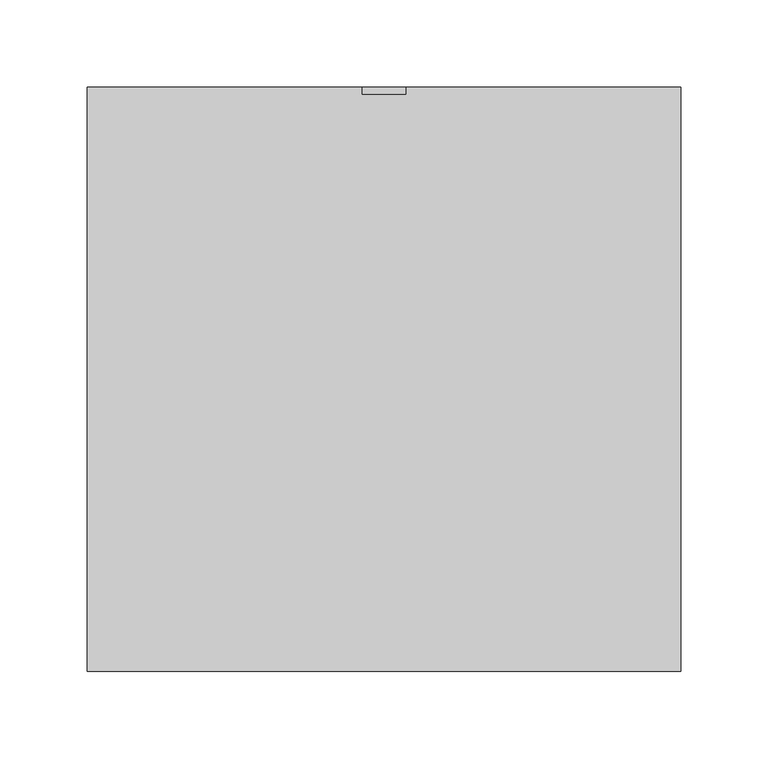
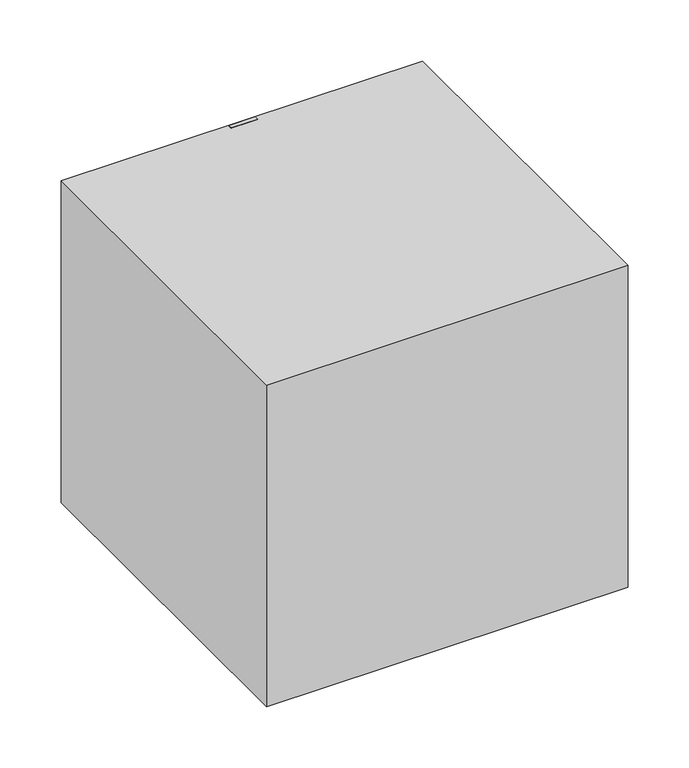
"""IFC4 building model written with IfcOpenShell, lengths in millimetres: damper geometry, Дроссель-клапан_Круглый : Дроссель-клапан_Круглый."""

from ifc_helpers import new_model, si_unit, point, frame, origin, origin_2d, place, context, project, spatial, polyline, circle_curve, trimmed, segment, composite_curve, outline, extrude, source, transform, mapped, element, save
from ifc_brep_helpers import plane_surface, cylinder_surface, advanced_brep


def damper_23d59467(model_context):
    return source(origin(), model_context, "Body", "SolidModel", [
        advanced_brep(
        [(12.5, 155.0, -40.0), (12.5, 159.0, -40.0), (12.5, 159.0, 68.0), (12.5, 185.0, 102.0), (12.5, 185.0, 170.0), (12.5, 181.0, 170.0), (12.5, 181.0, 102.0), (12.5, 155.0, 68.0), (-12.5, 155.0, -40.0), (-12.5, 155.0, 68.0), (-12.5, 181.0, 102.0), (-12.5, 181.0, 170.0), (-12.5, 185.0, 170.0), (-12.5, 185.0, 102.0), (-12.5, 159.0, 68.0), (-12.5, 159.0, -40.0), (0.0, 159.0, -10.0), (0.0, 159.0, 10.0), (0.0, 185.0, 10.0), (0.0, 185.0, -10.0)],
        [
            (0, 1),
            (1, 2),
            (2, 3),
            (3, 4),
            (4, 5),
            (5, 6),
            (6, 7),
            (7, 0),
            (8, 9),
            (9, 10),
            (10, 11),
            (11, 12),
            (12, 13),
            (13, 14),
            (14, 15),
            (15, 8),
            (0, 8),
            (15, 1),
            (14, 2),
            (16, 17, circle_curve(frame((0.0, 159.0, 0.0), z_axis=(0.0, -1.0, 0.0), x_axis=(0.0, 0.0, -1.0)), 10.0)),
            (17, 16, circle_curve(frame((0.0, 159.0, 0.0), z_axis=(0.0, -1.0, 0.0), x_axis=(0.0, 0.0, -1.0)), 10.0)),
            (3, 13),
            (12, 4),
            (11, 5),
            (10, 6),
            (7, 9),
            (18, 19, circle_curve(frame((0.0, 185.0, 0.0), z_axis=(0.0, 1.0, 0.0), x_axis=(0.0, 0.0, -1.0)), 10.0)),
            (19, 18, circle_curve(frame((0.0, 185.0, 0.0), z_axis=(0.0, 1.0, 0.0), x_axis=(0.0, 0.0, -1.0)), 10.0)),
            (18, 17),
            (16, 19),
        ],
        [
            plane_surface(frame((12.5, 159.0, -40.0), z_axis=(1.0, 0.0, 0.0), x_axis=(0.0, 1.0, 0.0))),
            plane_surface(frame((-12.5, 159.0, -40.0), z_axis=(-1.0, 0.0, 0.0), x_axis=(0.0, -1.0, 0.0))),
            plane_surface(frame((12.5, 155.0, -40.0), z_axis=(0.0, 0.0, -1.0), x_axis=(-1.0, 0.0, 0.0))),
            plane_surface(frame((12.5, 159.0, -40.0), z_axis=(0.0, 1.0, 0.0), x_axis=(-1.0, 0.0, 0.0))),
            plane_surface(frame((12.5, 185.0, 102.0), z_axis=(0.0, 1.0, 0.0), x_axis=(-1.0, 0.0, 0.0))),
            plane_surface(frame((12.5, 185.0, 170.0), z_axis=(0.0, 0.0, 1.0), x_axis=(-1.0, 0.0, 0.0))),
            plane_surface(frame((12.5, 181.0, 170.0), z_axis=(0.0, -1.0, 0.0), x_axis=(-1.0, 0.0, 0.0))),
            plane_surface(frame((12.5, 155.0, 68.0), z_axis=(0.0, -1.0, 0.0), x_axis=(-1.0, 0.0, 0.0))),
            plane_surface(frame((0.0, 185.0, -10.0), z_axis=(0.0, 1.0, 0.0), x_axis=(-1.0, 0.0, 0.0))),
            cylinder_surface(frame((0.0, 155.0, 0.0), z_axis=(0.0, 1.0, 0.0), x_axis=(0.0, 0.0, -1.0)), 10.0),
            plane_surface(frame((12.5, 159.0, 68.0), z_axis=(0.0, 0.7943578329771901, -0.6074501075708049), x_axis=(-1.0, 0.0, 0.0))),
            plane_surface(frame((12.5, 181.0, 102.0), z_axis=(0.0, -0.7943578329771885, 0.6074501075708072), x_axis=(-1.0, 0.0, 0.0))),
        ],
        [
            (0, [[1, 2, 3, 4, 5, 6, 7, 8]]),
            (1, [[9, 10, 11, 12, 13, 14, 15, 16]]),
            (2, [[-1, 17, -16, 18]]),
            (3, [[-2, -18, -15, 19], [20, 21]]),
            (4, [[-4, 22, -13, 23]]),
            (5, [[-5, -23, -12, 24]]),
            (6, [[-6, -24, -11, 25]]),
            (7, [[-8, 26, -9, -17]]),
            (8, [[27, 28]]),
            (9, [[-27, 29, -20, 30]]),
            (9, [[-28, -30, -21, -29]]),
            (10, [[-3, -19, -14, -22]]),
            (11, [[-7, -25, -10, -26]]),
        ],
    ),
        extrude(outline(polyline([(62.5, 155.0), (62.5, 0.0), (-62.5, 0.0), (-62.5, 155.0), (62.5, 155.0)])), frame((0.0, 0.0, -62.5), z_axis=(0.0, 0.0, 1.0), x_axis=(1.0, 0.0, 0.0)), (0.0, 0.0, 1.0), 125.0),
        extrude(outline(composite_curve([segment(trimmed(circle_curve(origin_2d(), 125.0), [point((-125.0, 0.0))], [point((125.0, 0.0))], False, "CARTESIAN"), True, "CONTINUOUS"), segment(trimmed(circle_curve(origin_2d(), 125.0), [point((125.0, 0.0))], [point((-125.0, 0.0))], False, "CARTESIAN"), True, "CONTINUOUS")], self_intersect=False)), frame((-85.0, 0.0, 0.0), z_axis=(1.0, 0.0, 0.0), x_axis=(0.0, 1.0, 0.0)), (0.0, 0.0, 1.0), 170.0),
        extrude(outline(polyline([(170.0, 185.0), (170.0, -150.0), (-170.0, -150.0), (-170.0, 185.0), (170.0, 185.0)])), frame((0.0, 0.0, -150.0), z_axis=(0.0, 0.0, 1.0), x_axis=(1.0, 0.0, 0.0)), (0.0, 0.0, 1.0), 320.0),
    ])


if __name__ == "__main__":
    model = new_model("IFC4")
    model_context = context("Model", 3, world=origin())
    ifc_project = project(units=[si_unit("LENGTHUNIT", "METRE", prefix="MILLI")], contexts=[model_context])
    site = spatial("IfcSite", under=ifc_project)
    building = spatial("IfcBuilding", under=site)
    placement = place(None, origin())
    damper_shape = damper_23d59467(model_context)
    element("IfcDamper", 1, ObjectType="Дроссель-клапан_Круглый : Дроссель-клапан_Круглый", at=placement, inside=building, context=model_context, shape_type="MappedRepresentation", body=[
        mapped(damper_shape, transform((0.0, 0.0, 0.0), x_axis=(1.0, 0.0, 0.0), y_axis=(0.0, 1.0, 0.0), z_axis=(0.0, 0.0, 1.0))),
    ])
    save(model, "model.ifc")
